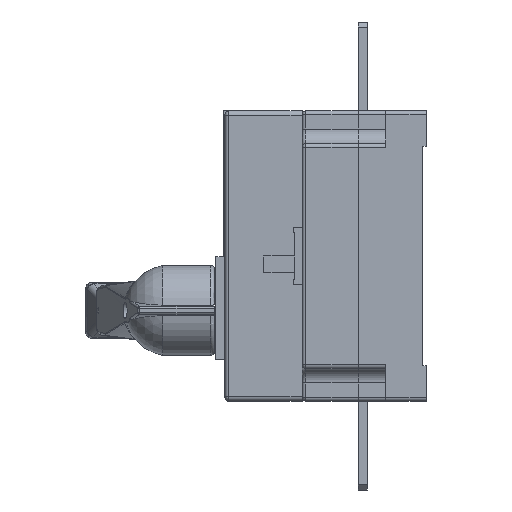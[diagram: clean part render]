
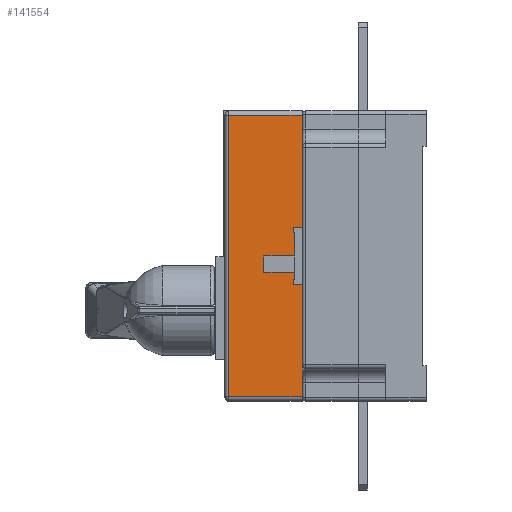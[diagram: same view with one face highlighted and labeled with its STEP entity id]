
A CAD part, left-side view. The second image highlights one B-rep face of the part: STEP entity #141554.
In plain terms, the highlighted planar face has unit normal (-1, 0, 0).
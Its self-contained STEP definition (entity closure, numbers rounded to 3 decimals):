
#7738 = DIRECTION ( 'NONE',  ( 0., -1., 0. ) ) ;
#16866 = DIRECTION ( 'NONE',  ( 0., 0., -1. ) ) ;
#26249 = CARTESIAN_POINT ( 'NONE',  ( -52.5, 109., 77.5 ) ) ;
#28992 = CARTESIAN_POINT ( 'NONE',  ( -52.5, 87.5, -9. ) ) ;
#30608 = LINE ( 'NONE', #108673, #229872 ) ;
#35788 = EDGE_CURVE ( 'NONE', #174265, #275011, #270709, .T. ) ;
#36110 = CARTESIAN_POINT ( 'NONE',  ( -52.5, 66.5, 0. ) ) ;
#52310 = VECTOR ( 'NONE', #185375, 1000. ) ;
#58903 = VECTOR ( 'NONE', #151712, 1000. ) ;
#63350 = VERTEX_POINT ( 'NONE', #28992 ) ;
#67794 = DIRECTION ( 'NONE',  ( 0., 0., 1. ) ) ;
#70780 = VECTOR ( 'NONE', #125539, 1000. ) ;
#83165 = DIRECTION ( 'NONE',  ( 0., -1., 0. ) ) ;
#83210 = DIRECTION ( 'NONE',  ( 0., 0., -1. ) ) ;
#84019 = CARTESIAN_POINT ( 'NONE',  ( -52.5, 66.5, -77.5 ) ) ;
#93453 = VERTEX_POINT ( 'NONE', #36110 ) ;
#97105 = ORIENTED_EDGE ( 'NONE', *, *, #309800, .T. ) ;
#99244 = AXIS2_PLACEMENT_3D ( 'NONE', #252818, #128880, #83210 ) ;
#101842 = VERTEX_POINT ( 'NONE', #84019 ) ;
#105444 = ORIENTED_EDGE ( 'NONE', *, *, #290395, .T. ) ;
#108673 = CARTESIAN_POINT ( 'NONE',  ( -52.5, 87.5, -9. ) ) ;
#111142 = ORIENTED_EDGE ( 'NONE', *, *, #309127, .T. ) ;
#112445 = LINE ( 'NONE', #311258, #225276 ) ;
#116175 = CARTESIAN_POINT ( 'NONE',  ( -52.5, 66.5, -9. ) ) ;
#125539 = DIRECTION ( 'NONE',  ( 0., 1., 0. ) ) ;
#127437 = EDGE_CURVE ( 'NONE', #313724, #101842, #200706, .T. ) ;
#128880 = DIRECTION ( 'NONE',  ( 1., 0., 0. ) ) ;
#132080 = FACE_OUTER_BOUND ( 'NONE', #200171, .T. ) ;
#133667 = PLANE ( 'NONE',  #99244 ) ;
#134870 = LINE ( 'NONE', #306116, #52310 ) ;
#141554 = ADVANCED_FACE ( 'NONE', ( #132080 ), #133667, .F. ) ;
#151712 = DIRECTION ( 'NONE',  ( 0., -1., 0. ) ) ;
#155887 = ORIENTED_EDGE ( 'NONE', *, *, #127437, .T. ) ;
#162115 = LINE ( 'NONE', #193036, #271753 ) ;
#169445 = EDGE_CURVE ( 'NONE', #259842, #63350, #134870, .T. ) ;
#172985 = CARTESIAN_POINT ( 'NONE',  ( -52.5, 109., -77.5 ) ) ;
#173004 = EDGE_CURVE ( 'NONE', #101842, #290336, #268228, .T. ) ;
#174265 = VERTEX_POINT ( 'NONE', #214255 ) ;
#185375 = DIRECTION ( 'NONE',  ( 0., 0., -1. ) ) ;
#193036 = CARTESIAN_POINT ( 'NONE',  ( -52.5, 66.5, -80. ) ) ;
#196461 = CARTESIAN_POINT ( 'NONE',  ( -52.5, 66.5, -80. ) ) ;
#199252 = EDGE_CURVE ( 'NONE', #63350, #290336, #30608, .T. ) ;
#200171 = EDGE_LOOP ( 'NONE', ( #306704, #105444, #155887, #258853, #288105, #207728, #111142, #97105 ) ) ;
#200706 = LINE ( 'NONE', #172985, #58903 ) ;
#207728 = ORIENTED_EDGE ( 'NONE', *, *, #169445, .F. ) ;
#214255 = CARTESIAN_POINT ( 'NONE',  ( -52.5, 66.5, 77.5 ) ) ;
#225276 = VECTOR ( 'NONE', #83165, 1000. ) ;
#226290 = CARTESIAN_POINT ( 'NONE',  ( -52.5, 87.5, 0. ) ) ;
#229872 = VECTOR ( 'NONE', #7738, 1000. ) ;
#234106 = VECTOR ( 'NONE', #16866, 1000. ) ;
#237202 = DIRECTION ( 'NONE',  ( 0., 0., 1. ) ) ;
#240089 = CARTESIAN_POINT ( 'NONE',  ( -52.5, 107., -77.5 ) ) ;
#247298 = VECTOR ( 'NONE', #67794, 1000. ) ;
#252818 = CARTESIAN_POINT ( 'NONE',  ( -52.5, 109., -80. ) ) ;
#258853 = ORIENTED_EDGE ( 'NONE', *, *, #173004, .T. ) ;
#259842 = VERTEX_POINT ( 'NONE', #226290 ) ;
#268228 = LINE ( 'NONE', #196461, #247298 ) ;
#270709 = LINE ( 'NONE', #26249, #70780 ) ;
#271753 = VECTOR ( 'NONE', #237202, 1000. ) ;
#274601 = CARTESIAN_POINT ( 'NONE',  ( -52.5, 107., -77.5 ) ) ;
#275011 = VERTEX_POINT ( 'NONE', #313821 ) ;
#288105 = ORIENTED_EDGE ( 'NONE', *, *, #199252, .F. ) ;
#288949 = LINE ( 'NONE', #240089, #234106 ) ;
#290336 = VERTEX_POINT ( 'NONE', #116175 ) ;
#290395 = EDGE_CURVE ( 'NONE', #275011, #313724, #288949, .T. ) ;
#306116 = CARTESIAN_POINT ( 'NONE',  ( -52.5, 87.5, 0. ) ) ;
#306704 = ORIENTED_EDGE ( 'NONE', *, *, #35788, .T. ) ;
#309127 = EDGE_CURVE ( 'NONE', #259842, #93453, #112445, .T. ) ;
#309800 = EDGE_CURVE ( 'NONE', #93453, #174265, #162115, .T. ) ;
#311258 = CARTESIAN_POINT ( 'NONE',  ( -52.5, 87.5, 0. ) ) ;
#313724 = VERTEX_POINT ( 'NONE', #274601 ) ;
#313821 = CARTESIAN_POINT ( 'NONE',  ( -52.5, 107., 77.5 ) ) ;
